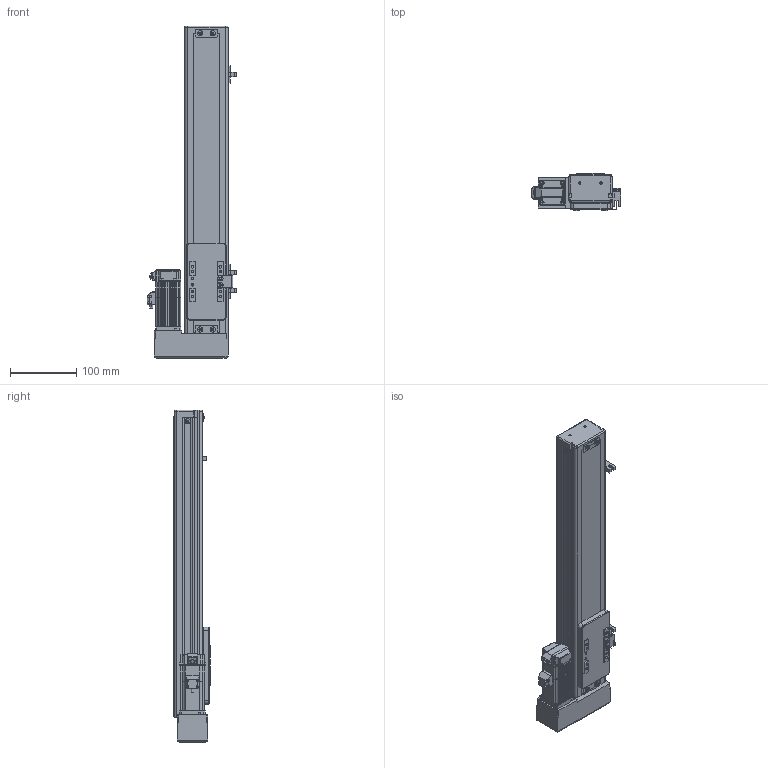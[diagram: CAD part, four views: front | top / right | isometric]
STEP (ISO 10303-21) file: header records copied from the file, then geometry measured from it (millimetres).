
FILE_DESCRIPTION (( 'STEP AP214' ), '1' );
FILE_NAME ('YTH6-300-BR-100W.STEP', '2017-03-20T01:16:10', ( 'Windows' ), ( 'Microsoft' ), 'SwSTEP 2.0', 'SolidWorks 2013', '' );
FILE_SCHEMA (( 'AUTOMOTIVE_DESIGN' ));
Length unit declared in the file: millimetre
Products named in the file (8): 内六角圆头带帽螺钉M3×8; MSMD01PC_P10; 賑釱; 萇儂啣; OMRON 換覜ん; 賑寢; YTH6-300-BR-100W; GB／T70．1-2000内六角圆柱头螺钉M4×12
Assembly tree (23 placements, depth 2):
  YTH6-300-BR-100W
    賑寢
    OMRON 換覜ん  x3
    萇儂啣
    賑釱
    MSMD01PC_P10
    内六角圆头带帽螺钉M3×8  x10
    GB／T70．1-2000内六角圆柱头螺钉M4×12  x6
Bounding box: 135.5 x 56.3 x 500 mm (x, y, z)
Volume: 1664592.8 mm3; surface area: 202665.9 mm2
Topology: 23 solids, 23 shells, 1831 faces, 4694 edges, 3068 vertices
Faces by surface type: plane 1137, cylinder 513, bspline 127, torus 28, cone 26
Entity records: 42866 total; most frequent: CARTESIAN_POINT 10113, ORIENTED_EDGE 6430, DIRECTION 6344, EDGE_CURVE 3215, VECTOR 2236, LINE 2236, VERTEX_POINT 2102, AXIS2_PLACEMENT_3D 2054
